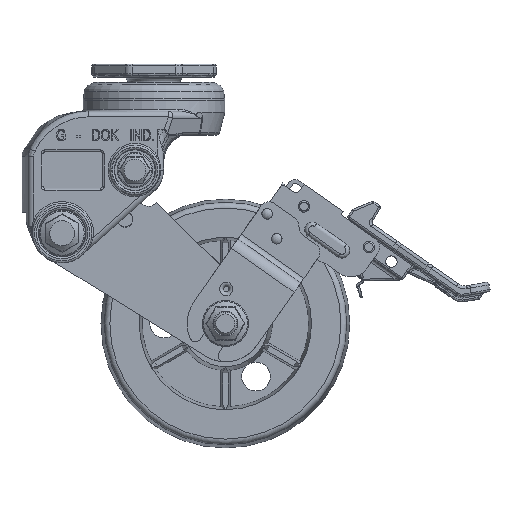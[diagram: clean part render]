
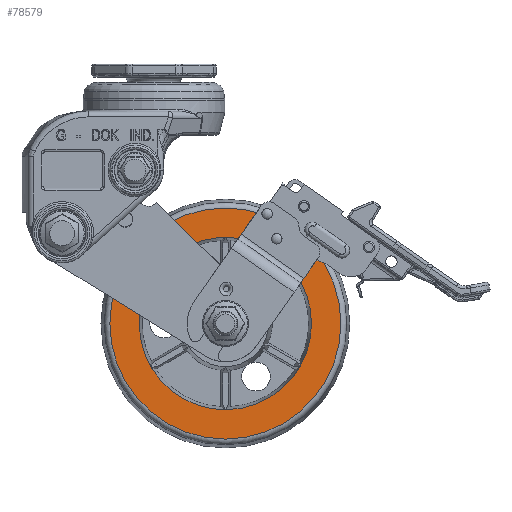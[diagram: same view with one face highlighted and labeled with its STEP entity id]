
A CAD part, left-side view. The second image highlights one B-rep face of the part: STEP entity #78579.
In plain terms, the highlighted planar face has unit normal (-1, 0, 0).
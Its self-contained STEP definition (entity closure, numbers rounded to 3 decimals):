
#75431=CARTESIAN_POINT('',(-20.0,23.061,-125.502));
#75432=VERTEX_POINT('',#75431);
#75433=CARTESIAN_POINT('',(-20.0,-37.313,-125.502));
#75434=DIRECTION('',(1.0,0.0,0.0));
#75435=DIRECTION('',(0.0,-1.0,0.0));
#75436=AXIS2_PLACEMENT_3D('',#75433,#75434,#75435);
#75437=CIRCLE('',#75436,60.373);
#75438=EDGE_CURVE('',#75432,#75432,#75437,.T.);
#76250=CARTESIAN_POINT('',(-20.0,-82.313,-125.502));
#76251=VERTEX_POINT('',#76250);
#76252=CARTESIAN_POINT('',(-20.0,-37.313,-125.502));
#76253=DIRECTION('',(1.0,0.0,0.0));
#76254=DIRECTION('',(0.0,1.0,0.0));
#76255=AXIS2_PLACEMENT_3D('',#76252,#76253,#76254);
#76256=CIRCLE('',#76255,45.);
#76257=EDGE_CURVE('',#76251,#76251,#76256,.T.);
#78568=CARTESIAN_POINT('',(-20.0,10.187,-125.502));
#78569=DIRECTION('',(-1.0,0.0,0.0));
#78570=DIRECTION('',(0.0,0.0,1.0));
#78571=AXIS2_PLACEMENT_3D('',#78568,#78569,#78570);
#78572=PLANE('',#78571);
#78573=ORIENTED_EDGE('',*,*,#75438,.F.);
#78574=EDGE_LOOP('',(#78573));
#78575=FACE_OUTER_BOUND('',#78574,.T.);
#78576=ORIENTED_EDGE('',*,*,#76257,.T.);
#78577=EDGE_LOOP('',(#78576));
#78578=FACE_BOUND('',#78577,.T.);
#78579=ADVANCED_FACE('',(#78575,#78578),#78572,.T.);
